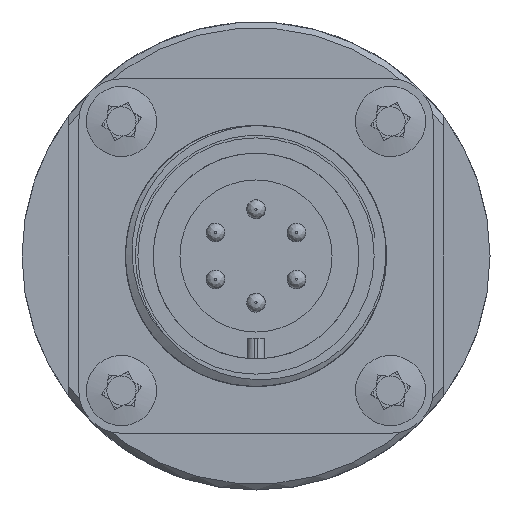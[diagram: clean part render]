
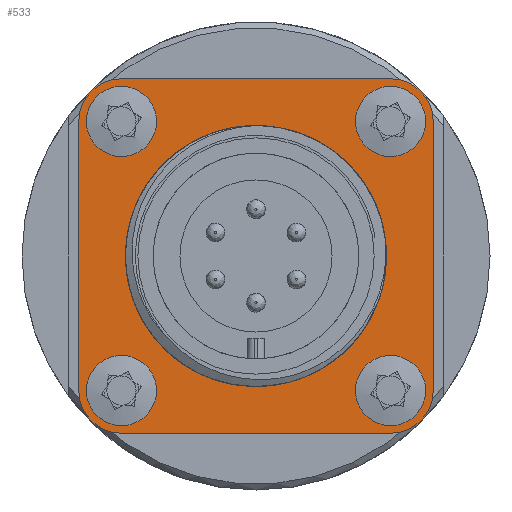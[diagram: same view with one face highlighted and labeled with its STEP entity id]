
A CAD part, front view. The second image highlights one B-rep face of the part: STEP entity #533.
In plain terms, the highlighted planar face has unit normal (0, -1, 0) as drawn and (-1, 0, 0) by its records, which use the part's own axes.
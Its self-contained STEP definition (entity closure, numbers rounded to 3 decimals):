
#533 = ADVANCED_FACE( '', ( #1094, #1095, #1096, #1097, #1098, #1099 ), #1100, .F. );
#1094 = FACE_BOUND( '', #2313, .T. );
#1095 = FACE_BOUND( '', #2314, .T. );
#1096 = FACE_OUTER_BOUND( '', #2315, .T. );
#1097 = FACE_BOUND( '', #2316, .T. );
#1098 = FACE_BOUND( '', #2317, .T. );
#1099 = FACE_BOUND( '', #2318, .T. );
#1100 = PLANE( '', #2319 );
#2313 = EDGE_LOOP( '', ( #7260 ) );
#2314 = EDGE_LOOP( '', ( #7261 ) );
#2315 = EDGE_LOOP( '', ( #7262, #7263, #7264, #7265, #7266, #7267, #7268, #7269 ) );
#2316 = EDGE_LOOP( '', ( #7270 ) );
#2317 = EDGE_LOOP( '', ( #7271 ) );
#2318 = EDGE_LOOP( '', ( #7272 ) );
#2319 = AXIS2_PLACEMENT_3D( '', #7273, #7274, #7275 );
#7260 = ORIENTED_EDGE( '', *, *, #8264, .T. );
#7261 = ORIENTED_EDGE( '', *, *, #8370, .T. );
#7262 = ORIENTED_EDGE( '', *, *, #8371, .F. );
#7263 = ORIENTED_EDGE( '', *, *, #8372, .F. );
#7264 = ORIENTED_EDGE( '', *, *, #8182, .F. );
#7265 = ORIENTED_EDGE( '', *, *, #8373, .F. );
#7266 = ORIENTED_EDGE( '', *, *, #8313, .F. );
#7267 = ORIENTED_EDGE( '', *, *, #8150, .F. );
#7268 = ORIENTED_EDGE( '', *, *, #8341, .F. );
#7269 = ORIENTED_EDGE( '', *, *, #8374, .F. );
#7270 = ORIENTED_EDGE( '', *, *, #8375, .T. );
#7271 = ORIENTED_EDGE( '', *, *, #8175, .T. );
#7272 = ORIENTED_EDGE( '', *, *, #8376, .T. );
#7273 = CARTESIAN_POINT( '', ( -2.4, -11.5, 11.5 ) );
#7274 = DIRECTION( '', ( 1., 0., 0. ) );
#7275 = DIRECTION( '', ( 0., 1., 0. ) );
#8150 = EDGE_CURVE( '', #8709, #8711, #8712, .T. );
#8175 = EDGE_CURVE( '', #8755, #8755, #8756, .T. );
#8182 = EDGE_CURVE( '', #8766, #8768, #8769, .T. );
#8264 = EDGE_CURVE( '', #8909, #8909, #8910, .T. );
#8313 = EDGE_CURVE( '', #8711, #8986, #8987, .T. );
#8341 = EDGE_CURVE( '', #9024, #8709, #9026, .T. );
#8370 = EDGE_CURVE( '', #9066, #9066, #9067, .T. );
#8371 = EDGE_CURVE( '', #9068, #9069, #9070, .T. );
#8372 = EDGE_CURVE( '', #8768, #9068, #9071, .T. );
#8373 = EDGE_CURVE( '', #8986, #8766, #9072, .T. );
#8374 = EDGE_CURVE( '', #9069, #9024, #9073, .T. );
#8375 = EDGE_CURVE( '', #9074, #9074, #9075, .T. );
#8376 = EDGE_CURVE( '', #9076, #9076, #9077, .T. );
#8709 = VERTEX_POINT( '', #9675 );
#8711 = VERTEX_POINT( '', #9678 );
#8712 = LINE( '', #9679, #9680 );
#8755 = VERTEX_POINT( '', #9728 );
#8756 = CIRCLE( '', #9729, 1.5 );
#8766 = VERTEX_POINT( '', #9739 );
#8768 = VERTEX_POINT( '', #9742 );
#8769 = CIRCLE( '', #9743, 3.65 );
#8909 = VERTEX_POINT( '', #9967 );
#8910 = CIRCLE( '', #9968, 11.15 );
#8986 = VERTEX_POINT( '', #10747 );
#8987 = CIRCLE( '', #10748, 3.65 );
#9024 = VERTEX_POINT( '', #10836 );
#9026 = CIRCLE( '', #10839, 3.65 );
#9066 = VERTEX_POINT( '', #11353 );
#9067 = CIRCLE( '', #11354, 1.5 );
#9068 = VERTEX_POINT( '', #11355 );
#9069 = VERTEX_POINT( '', #11356 );
#9070 = CIRCLE( '', #11357, 3.65 );
#9071 = LINE( '', #11358, #11359 );
#9072 = LINE( '', #11360, #11361 );
#9073 = LINE( '', #11362, #11363 );
#9074 = VERTEX_POINT( '', #11364 );
#9075 = CIRCLE( '', #11365, 1.5 );
#9076 = VERTEX_POINT( '', #11366 );
#9077 = CIRCLE( '', #11367, 1.5 );
#9675 = CARTESIAN_POINT( '', ( -2.4, -11.5, -15.15 ) );
#9678 = CARTESIAN_POINT( '', ( -2.4, 11.5, -15.15 ) );
#9679 = CARTESIAN_POINT( '', ( -2.4, -11.5, -15.15 ) );
#9680 = VECTOR( '', #13309, 1000. );
#9728 = CARTESIAN_POINT( '', ( -2.4, 13., -11.5 ) );
#9729 = AXIS2_PLACEMENT_3D( '', #13360, #13361, #13362 );
#9739 = CARTESIAN_POINT( '', ( -2.4, 15.15, 11.5 ) );
#9742 = CARTESIAN_POINT( '', ( -2.4, 11.5, 15.15 ) );
#9743 = AXIS2_PLACEMENT_3D( '', #13373, #13374, #13375 );
#9967 = CARTESIAN_POINT( '', ( -2.4, 11.15, 0. ) );
#9968 = AXIS2_PLACEMENT_3D( '', #13491, #13492, #13493 );
#10747 = CARTESIAN_POINT( '', ( -2.4, 15.15, -11.5 ) );
#10748 = AXIS2_PLACEMENT_3D( '', #13557, #13558, #13559 );
#10836 = CARTESIAN_POINT( '', ( -2.4, -15.15, -11.5 ) );
#10839 = AXIS2_PLACEMENT_3D( '', #13581, #13582, #13583 );
#11353 = CARTESIAN_POINT( '', ( -2.4, -10., 11.5 ) );
#11354 = AXIS2_PLACEMENT_3D( '', #13607, #13608, #13609 );
#11355 = CARTESIAN_POINT( '', ( -2.4, -11.5, 15.15 ) );
#11356 = CARTESIAN_POINT( '', ( -2.4, -15.15, 11.5 ) );
#11357 = AXIS2_PLACEMENT_3D( '', #13610, #13611, #13612 );
#11358 = CARTESIAN_POINT( '', ( -2.4, -11.5, 15.15 ) );
#11359 = VECTOR( '', #13613, 1000. );
#11360 = CARTESIAN_POINT( '', ( -2.4, 15.15, 11.5 ) );
#11361 = VECTOR( '', #13614, 1000. );
#11362 = CARTESIAN_POINT( '', ( -2.4, -15.15, 11.5 ) );
#11363 = VECTOR( '', #13615, 1000. );
#11364 = CARTESIAN_POINT( '', ( -2.4, 13., 11.5 ) );
#11365 = AXIS2_PLACEMENT_3D( '', #13616, #13617, #13618 );
#11366 = CARTESIAN_POINT( '', ( -2.4, -10., -11.5 ) );
#11367 = AXIS2_PLACEMENT_3D( '', #13619, #13620, #13621 );
#13309 = DIRECTION( '', ( 0., 1., 0. ) );
#13360 = CARTESIAN_POINT( '', ( -2.4, 11.5, -11.5 ) );
#13361 = DIRECTION( '', ( 1., 0., 0. ) );
#13362 = DIRECTION( '', ( 0., 1., 0. ) );
#13373 = CARTESIAN_POINT( '', ( -2.4, 11.5, 11.5 ) );
#13374 = DIRECTION( '', ( 1., 0., 0. ) );
#13375 = DIRECTION( '', ( 0., 1., 0. ) );
#13491 = CARTESIAN_POINT( '', ( -2.4, 0., 0. ) );
#13492 = DIRECTION( '', ( 1., 0., 0. ) );
#13493 = DIRECTION( '', ( 0., 1., 0. ) );
#13557 = CARTESIAN_POINT( '', ( -2.4, 11.5, -11.5 ) );
#13558 = DIRECTION( '', ( 1., 0., 0. ) );
#13559 = DIRECTION( '', ( 0., -1., 0. ) );
#13581 = CARTESIAN_POINT( '', ( -2.4, -11.5, -11.5 ) );
#13582 = DIRECTION( '', ( 1., 0., 0. ) );
#13583 = DIRECTION( '', ( 0., 1., 0. ) );
#13607 = CARTESIAN_POINT( '', ( -2.4, -11.5, 11.5 ) );
#13608 = DIRECTION( '', ( 1., 0., 0. ) );
#13609 = DIRECTION( '', ( 0., 1., 0. ) );
#13610 = CARTESIAN_POINT( '', ( -2.4, -11.5, 11.5 ) );
#13611 = DIRECTION( '', ( 1., 0., 0. ) );
#13612 = DIRECTION( '', ( 0., 1., 0. ) );
#13613 = DIRECTION( '', ( 0., -1., 0. ) );
#13614 = DIRECTION( '', ( 0., 0., 1. ) );
#13615 = DIRECTION( '', ( 0., 0., -1. ) );
#13616 = CARTESIAN_POINT( '', ( -2.4, 11.5, 11.5 ) );
#13617 = DIRECTION( '', ( 1., 0., 0. ) );
#13618 = DIRECTION( '', ( 0., 1., 0. ) );
#13619 = CARTESIAN_POINT( '', ( -2.4, -11.5, -11.5 ) );
#13620 = DIRECTION( '', ( 1., 0., 0. ) );
#13621 = DIRECTION( '', ( 0., 1., 0. ) );
